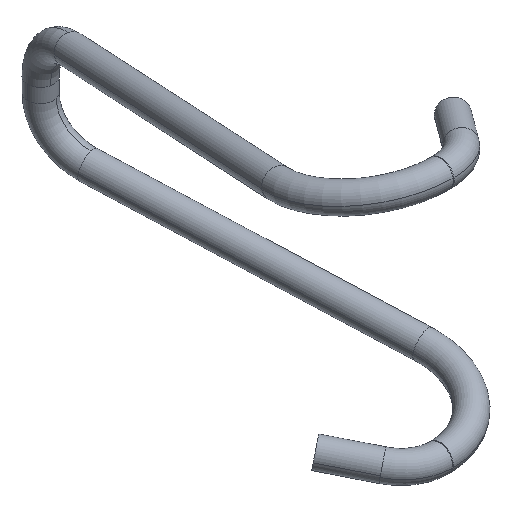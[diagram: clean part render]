
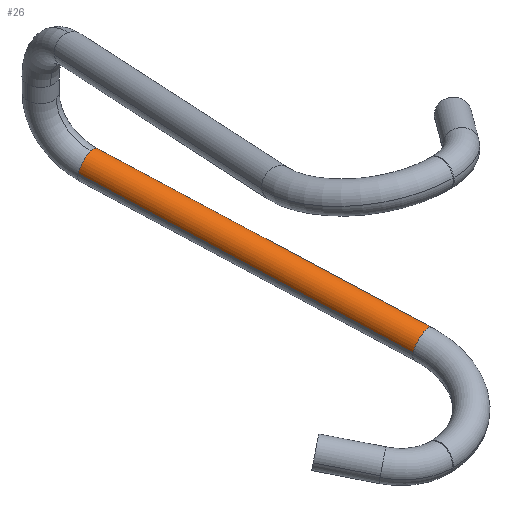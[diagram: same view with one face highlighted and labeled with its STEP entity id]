
A CAD part, isometric view. The second image highlights one B-rep face of the part: STEP entity #26.
In plain terms, the highlighted cylindrical face has radius 1.5 mm (diameter 3 mm), a partial arc.
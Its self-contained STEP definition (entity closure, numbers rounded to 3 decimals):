
#26 = ADVANCED_FACE ( 'NONE', ( #829 ), #54, .T. ) ;
#32 = CARTESIAN_POINT ( 'NONE',  ( 9.743, 10.572, -12.062 ) ) ;
#42 = ORIENTED_EDGE ( 'NONE', *, *, #765, .T. ) ;
#54 = CYLINDRICAL_SURFACE ( 'NONE', #784, 1.5 ) ;
#61 = ORIENTED_EDGE ( 'NONE', *, *, #990, .F. ) ;
#63 = DIRECTION ( 'NONE',  ( -0.225, 0.957, 0.181 ) ) ;
#72 = LINE ( 'NONE', #458, #637 ) ;
#77 = EDGE_CURVE ( 'NONE', #731, #271, #202, .T. ) ;
#85 = DIRECTION ( 'NONE',  ( 0.225, -0.957, -0.181 ) ) ;
#141 = EDGE_CURVE ( 'NONE', #717, #731, #666, .T. ) ;
#165 = CARTESIAN_POINT ( 'NONE',  ( 8.282, 10.229, -12.062 ) ) ;
#170 = EDGE_CURVE ( 'NONE', #717, #447, #551, .T. ) ;
#174 = CARTESIAN_POINT ( 'NONE',  ( 8.282, 10.229, -12.062 ) ) ;
#202 = CIRCLE ( 'NONE', #846, 1.5 ) ;
#212 = CARTESIAN_POINT ( 'NONE',  ( -0.431, 40.774, -6.209 ) ) ;
#216 = AXIS2_PLACEMENT_3D ( 'NONE', #579, #881, #291 ) ;
#234 = ORIENTED_EDGE ( 'NONE', *, *, #170, .T. ) ;
#250 = VERTEX_POINT ( 'NONE', #640 ) ;
#271 = VERTEX_POINT ( 'NONE', #634 ) ;
#291 = DIRECTION ( 'NONE',  ( -0.957, -0.182, -0.225 ) ) ;
#302 = VECTOR ( 'NONE', #617, 1000. ) ;
#336 = CARTESIAN_POINT ( 'NONE',  ( 1.029, 41.117, -6.209 ) ) ;
#362 = DIRECTION ( 'NONE',  ( -0.974, -0.229, 0. ) ) ;
#385 = AXIS2_PLACEMENT_3D ( 'NONE', #336, #585, #748 ) ;
#387 = DIRECTION ( 'NONE',  ( 0.225, -0.957, -0.181 ) ) ;
#389 = EDGE_LOOP ( 'NONE', ( #890, #234, #42, #486, #61, #558 ) ) ;
#445 = AXIS2_PLACEMENT_3D ( 'NONE', #174, #85, #698 ) ;
#447 = VERTEX_POINT ( 'NONE', #594 ) ;
#456 = DIRECTION ( 'NONE',  ( -0.225, 0.957, 0.181 ) ) ;
#458 = CARTESIAN_POINT ( 'NONE',  ( 6.822, 9.886, -12.062 ) ) ;
#486 = ORIENTED_EDGE ( 'NONE', *, *, #807, .T. ) ;
#538 = CIRCLE ( 'NONE', #216, 1.5 ) ;
#551 = LINE ( 'NONE', #919, #302 ) ;
#558 = ORIENTED_EDGE ( 'NONE', *, *, #77, .F. ) ;
#571 = CARTESIAN_POINT ( 'NONE',  ( 9.744, 10.56, -11.999 ) ) ;
#579 = CARTESIAN_POINT ( 'NONE',  ( 1.029, 41.117, -6.209 ) ) ;
#585 = DIRECTION ( 'NONE',  ( 0.225, -0.957, -0.181 ) ) ;
#594 = CARTESIAN_POINT ( 'NONE',  ( 2.49, 41.46, -6.209 ) ) ;
#617 = DIRECTION ( 'NONE',  ( -0.225, 0.957, 0.181 ) ) ;
#634 = CARTESIAN_POINT ( 'NONE',  ( 6.822, 9.886, -12.062 ) ) ;
#637 = VECTOR ( 'NONE', #63, 1000. ) ;
#640 = CARTESIAN_POINT ( 'NONE',  ( 1.091, 40.852, -4.734 ) ) ;
#663 = CARTESIAN_POINT ( 'NONE',  ( 8.282, 10.229, -12.062 ) ) ;
#666 = CIRCLE ( 'NONE', #445, 1.5 ) ;
#686 = DIRECTION ( 'NONE',  ( -0.957, -0.182, -0.225 ) ) ;
#698 = DIRECTION ( 'NONE',  ( -0.957, -0.182, -0.225 ) ) ;
#717 = VERTEX_POINT ( 'NONE', #32 ) ;
#731 = VERTEX_POINT ( 'NONE', #571 ) ;
#748 = DIRECTION ( 'NONE',  ( -0.957, -0.182, -0.225 ) ) ;
#765 = EDGE_CURVE ( 'NONE', #447, #250, #884, .T. ) ;
#784 = AXIS2_PLACEMENT_3D ( 'NONE', #663, #456, #362 ) ;
#807 = EDGE_CURVE ( 'NONE', #250, #849, #538, .T. ) ;
#829 = FACE_OUTER_BOUND ( 'NONE', #389, .T. ) ;
#846 = AXIS2_PLACEMENT_3D ( 'NONE', #165, #387, #686 ) ;
#849 = VERTEX_POINT ( 'NONE', #212 ) ;
#881 = DIRECTION ( 'NONE',  ( 0.225, -0.957, -0.181 ) ) ;
#884 = CIRCLE ( 'NONE', #385, 1.5 ) ;
#890 = ORIENTED_EDGE ( 'NONE', *, *, #141, .F. ) ;
#919 = CARTESIAN_POINT ( 'NONE',  ( 9.743, 10.572, -12.062 ) ) ;
#990 = EDGE_CURVE ( 'NONE', #271, #849, #72, .T. ) ;
